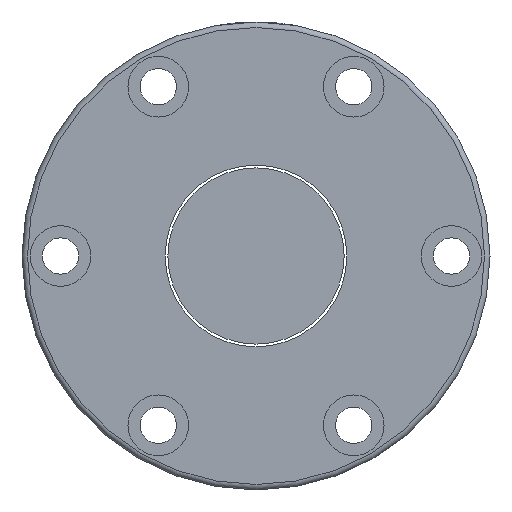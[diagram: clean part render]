
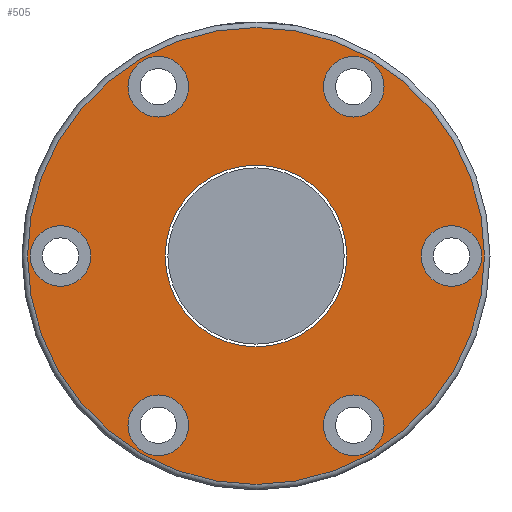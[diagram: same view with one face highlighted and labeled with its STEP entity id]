
A CAD part, left-side view. The second image highlights one B-rep face of the part: STEP entity #505.
In plain terms, the highlighted planar face has unit normal (-1, 0, 0).
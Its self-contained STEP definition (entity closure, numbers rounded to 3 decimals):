
#58=PLANE('',#575);
#87=ORIENTED_EDGE('',*,*,#189,.F.);
#88=ORIENTED_EDGE('',*,*,#190,.T.);
#89=ORIENTED_EDGE('',*,*,#191,.T.);
#90=ORIENTED_EDGE('',*,*,#192,.T.);
#91=ORIENTED_EDGE('',*,*,#193,.T.);
#92=ORIENTED_EDGE('',*,*,#194,.T.);
#93=ORIENTED_EDGE('',*,*,#195,.T.);
#94=ORIENTED_EDGE('',*,*,#196,.T.);
#189=EDGE_CURVE('',#240,#240,#282,.T.);
#190=EDGE_CURVE('',#241,#241,#283,.T.);
#191=EDGE_CURVE('',#242,#242,#284,.T.);
#192=EDGE_CURVE('',#243,#243,#285,.T.);
#193=EDGE_CURVE('',#244,#244,#286,.T.);
#194=EDGE_CURVE('',#245,#245,#287,.T.);
#195=EDGE_CURVE('',#246,#246,#288,.T.);
#196=EDGE_CURVE('',#247,#247,#289,.T.);
#240=VERTEX_POINT('',#849);
#241=VERTEX_POINT('',#851);
#242=VERTEX_POINT('',#853);
#243=VERTEX_POINT('',#855);
#244=VERTEX_POINT('',#857);
#245=VERTEX_POINT('',#859);
#246=VERTEX_POINT('',#861);
#247=VERTEX_POINT('',#863);
#282=CIRCLE('',#576,16.5);
#283=CIRCLE('',#577,41.5);
#284=CIRCLE('',#578,5.5);
#285=CIRCLE('',#579,5.5);
#286=CIRCLE('',#580,5.5);
#287=CIRCLE('',#581,5.5);
#288=CIRCLE('',#582,5.5);
#289=CIRCLE('',#583,5.5);
#322=EDGE_LOOP('',(#87));
#323=EDGE_LOOP('',(#88));
#324=EDGE_LOOP('',(#89));
#325=EDGE_LOOP('',(#90));
#326=EDGE_LOOP('',(#91));
#327=EDGE_LOOP('',(#92));
#328=EDGE_LOOP('',(#93));
#329=EDGE_LOOP('',(#94));
#405=FACE_BOUND('',#322,.T.);
#406=FACE_BOUND('',#323,.T.);
#407=FACE_BOUND('',#324,.T.);
#408=FACE_BOUND('',#325,.T.);
#409=FACE_BOUND('',#326,.T.);
#410=FACE_BOUND('',#327,.T.);
#411=FACE_BOUND('',#328,.T.);
#412=FACE_BOUND('',#329,.T.);
#505=ADVANCED_FACE('',(#405,#406,#407,#408,#409,#410,#411,#412),#58,.T.);
#575=AXIS2_PLACEMENT_3D('',#847,#664,#665);
#576=AXIS2_PLACEMENT_3D('',#848,#666,#667);
#577=AXIS2_PLACEMENT_3D('',#850,#668,#669);
#578=AXIS2_PLACEMENT_3D('',#852,#670,#671);
#579=AXIS2_PLACEMENT_3D('',#854,#672,#673);
#580=AXIS2_PLACEMENT_3D('',#856,#674,#675);
#581=AXIS2_PLACEMENT_3D('',#858,#676,#677);
#582=AXIS2_PLACEMENT_3D('',#860,#678,#679);
#583=AXIS2_PLACEMENT_3D('',#862,#680,#681);
#664=DIRECTION('',(-1.,0.,0.));
#665=DIRECTION('',(0.,0.,-1.));
#666=DIRECTION('',(-1.,0.,0.));
#667=DIRECTION('',(0.,1.,0.));
#668=DIRECTION('',(-1.,0.,0.));
#669=DIRECTION('',(0.,-1.,0.));
#670=DIRECTION('',(1.,0.,0.));
#671=DIRECTION('',(0.,1.,0.));
#672=DIRECTION('',(1.,0.,0.));
#673=DIRECTION('',(0.,0.5,0.866));
#674=DIRECTION('',(1.,0.,0.));
#675=DIRECTION('',(0.,-0.5,0.866));
#676=DIRECTION('',(1.,0.,0.));
#677=DIRECTION('',(0.,-1.,0.));
#678=DIRECTION('',(1.,0.,0.));
#679=DIRECTION('',(0.,-0.5,-0.866));
#680=DIRECTION('',(1.,0.,0.));
#681=DIRECTION('',(0.,0.5,-0.866));
#847=CARTESIAN_POINT('',(-56.,0.,0.));
#848=CARTESIAN_POINT('',(-56.,0.,0.));
#849=CARTESIAN_POINT('',(-56.,16.5,0.));
#850=CARTESIAN_POINT('',(-56.,0.,0.));
#851=CARTESIAN_POINT('',(-56.,-41.5,0.));
#852=CARTESIAN_POINT('',(-56.,17.75,-30.744));
#853=CARTESIAN_POINT('',(-56.,23.25,-30.744));
#854=CARTESIAN_POINT('',(-56.,35.5,0.));
#855=CARTESIAN_POINT('',(-56.,38.25,4.763));
#856=CARTESIAN_POINT('',(-56.,17.75,30.744));
#857=CARTESIAN_POINT('',(-56.,15.,35.507));
#858=CARTESIAN_POINT('',(-56.,-17.75,30.744));
#859=CARTESIAN_POINT('',(-56.,-23.25,30.744));
#860=CARTESIAN_POINT('',(-56.,-35.5,0.));
#861=CARTESIAN_POINT('',(-56.,-38.25,-4.763));
#862=CARTESIAN_POINT('',(-56.,-17.75,-30.744));
#863=CARTESIAN_POINT('',(-56.,-15.,-35.507));
